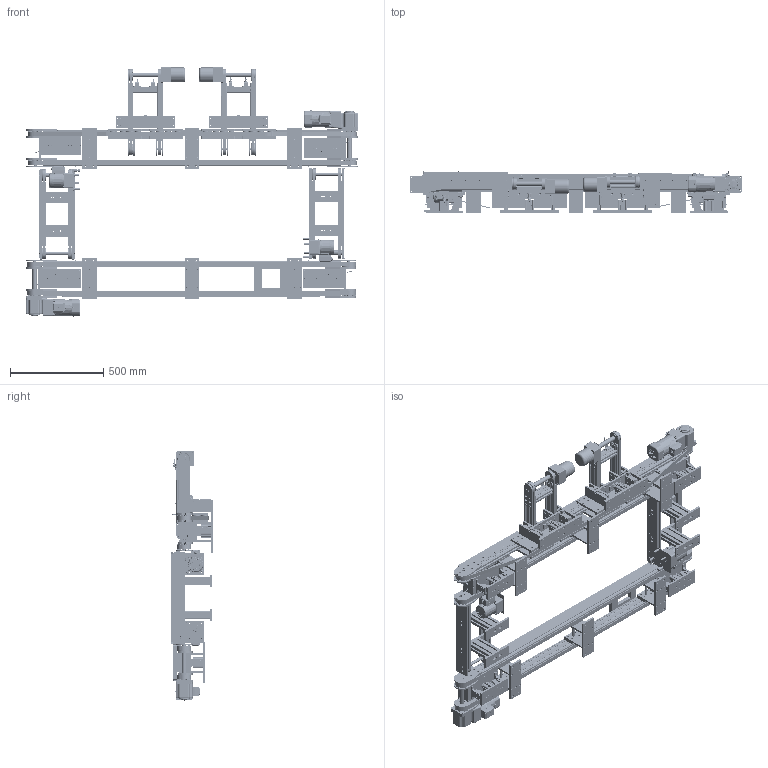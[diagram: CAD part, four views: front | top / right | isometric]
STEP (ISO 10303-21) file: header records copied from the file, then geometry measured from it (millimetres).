
FILE_DESCRIPTION(/* description */ (''),/* implementation_level */ '2;1');
FILE_NAME(/* name */ 'beltconveyor_a092_w185_l5200.stp',/* time_stamp */ '2025-01-03T21:41:15+08:00',/* author */ (''),/* organization */ (''),/* preprocessor_version */ 'ST-DEVELOPER v16.7',/* originating_system */ 'SIEMENS PLM Software NX 12.0',/* authorisation */ '');
FILE_SCHEMA (('AUTOMOTIVE_DESIGN { 1 0 10303 214 3 1 1 1 }'));
Products named in the file (157): C04; C05; B6202ZZ; C07; C06; C08; B628ZZ; C09; HGH15_2; HGR15_1; 3_2; 1_3; 2_3; A008; 镜向A008; A009; C19a; C02; C03; 镜向A014; A012; A006; 镜向A004; A003; 镜向A012; A013; 镜向A006; 镜向A013; RB0806S缓冲器; A005; A002; A004; A007; 镜向A002; A001; 镜向A003; A014; 30x60型材-450-2; 精研25YS25WGV22X+80GK10HK; A015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
Assembly tree (275 placements, depth 6):
  beltconveyor_a092_w185_l5200
    S0  x2
      S08
      S06
      S02
      电动滚筒DC24V
      CDQ2A40-15DMZ-M9P(0_0_0)
        4
        3_4
        5
        1_4
        2_4
      S04
      S03
      S05
      S01
      MGN15C
        MANIFOLD_SOLID_BREP_99_1
        MANIFOLD_SOLID_BREP_100
      S09
      S07
    C0
      皮带-1
      C10
      C21
      A0
        UNST6-30  x2
          2_1
          1_1
        A1
          30x60型材-150
          A3  x2
            A009
            镜向A008
            A008
          A016
          A011  x2
          FL6804ZZ
          30x60型材-450-1
          同步带  x2
          A015
          AATF20L050  x2
            2_3
            1_3
            3_2
          精研25YS25WGV22X+80GK10HK
          ATPA20L050-A-N20  x2
            1
            2
            3
          30x60型材-450-2
          A014
        A010  x2
        A2
          镜向A003
          A001
          镜向A002
          A007
          A004
          A002
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Bounding box: 1781 x 228.5 x 1336.16 mm (x, y, z)
Volume: 37514920.6 mm3; surface area: 13111941.3 mm2
Topology: 578 solids, 616 shells, 37613 faces, 98948 edges, 64216 vertices
Faces by surface type: plane 16607, cylinder 14676, bspline 2278, cone 1802, torus 1294, extrusion 738, sphere 218
Entity records: 567641 total; most frequent: CARTESIAN_POINT 161674, ORIENTED_EDGE 77302, DIRECTION 70478, EDGE_CURVE 38651, VERTEX_POINT 25253, AXIS2_PLACEMENT_3D 23986, VECTOR 22506, LINE 21768
